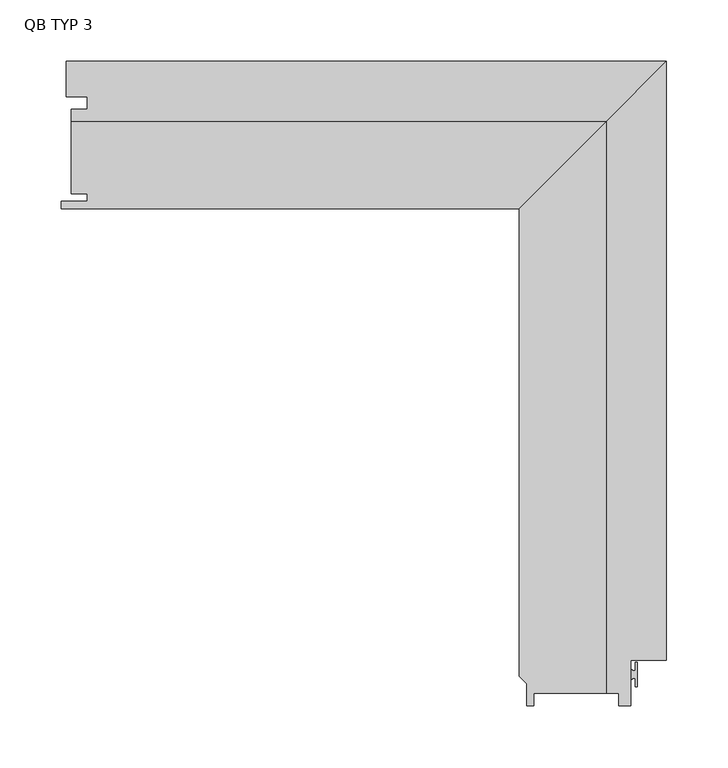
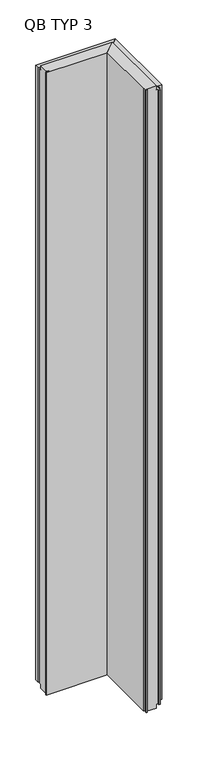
"""IFC4 building model written with IfcOpenShell, lengths in millimetres: plate geometry, TR_C_V_QBISS_Corner_Long_A : QB TYP 3."""

from ifc_helpers import new_model, si_unit, frame, origin, place, context, project, spatial, polyline, outline, extrude, faceted_brep, source, transform, mapped, element, save


def qb_typ_3_84fac94e(model_context):
    return source(origin(), model_context, "Body", "SolidModel", [
        faceted_brep([(122.5, -120.0, 4012.4), (122.5, -501.0, 4012.4), (128.5, -507.0, 4012.4), (128.5, -525.0, 4012.4), (134.5, -525.0, 4012.4), (134.5, -515.0, 4012.4), (193.5, -515.0, 4012.4), (193.5, -49.0, 4012.4), (134.5, -515.0, -12.4), (134.5, -525.0, -12.4), (128.5, -525.0, -12.4), (128.5, -507.0, -12.4), (122.5, -501.0, -12.4), (122.5, -120.0, -12.4), (193.5, -49.0, -12.4), (193.5, -515.0, -12.4), (193.5, -515.0, 12.7), (203.5, -515.0, 12.7), (203.5, -515.0, 3987.3), (193.5, -515.0, 3987.3), (203.5, -525.0, 12.7), (203.5, -525.0, 3987.3), (213.5, -525.0, 12.7), (213.5, -525.0, 3987.3), (213.5, -488.0, 12.7), (213.5, -488.0, 3987.3), (242.5, -488.0, 12.7), (242.5, -488.0, 3987.3), (242.5, 0.0, 12.7), (242.5, 0.0, 3987.3), (193.5, -49.0, 3987.3), (193.5, -49.0, 12.7)], [[[0, 1, 2, 3, 4, 5, 6, 7]], [[8, 9, 10, 11, 12, 13, 14, 15]], [[1, 0, 13, 12]], [[2, 1, 12, 11]], [[3, 2, 11, 10]], [[4, 3, 10, 9]], [[5, 4, 9, 8]], [[5, 8, 15, 16, 17, 18, 19, 6]], [[18, 17, 20, 21]], [[21, 20, 22, 23]], [[23, 22, 24, 25]], [[25, 24, 26, 27]], [[27, 26, 28, 29]], [[19, 30, 7, 6]], [[30, 19, 18, 21, 23, 25, 27, 29]], [[31, 16, 15, 14]], [[16, 31, 28, 26, 24, 22, 20, 17]], [[13, 0, 7, 30, 29, 28, 31, 14]]]),
        extrude(outline(polyline([(218.5, -509.5), (217.0001683, -509.5), (217.0001683, -502.7023593), (214.5001707, -502.7023593), (214.5001707, -503.5023593), (213.7001572, -503.5023593), (213.7001572, -495.5023028), (214.5001707, -495.5023028), (214.5001707, -496.3023028), (217.0001683, -496.3023028), (217.0001683, -489.5), (218.5, -489.5), (218.5, -509.5)])), frame((0.0, 0.0, 12.7), z_axis=(0.0, 0.0, 1.0), x_axis=(1.0, 0.0, 0.0)), (0.0, 0.0, 1.0), 3974.6),
        faceted_brep([(-242.5, -108.0, 4012.4), (-229.5, -108.0, 4012.4), (-229.5, -114.0, 4012.4), (-250.5, -114.0, 4012.4), (-250.5, -120.0, 4012.4), (122.5, -120.0, 4012.4), (193.5, -49.0, 4012.4), (-242.5, -49.0, 4012.4), (122.5, -120.0, -12.4), (-250.5, -120.0, -12.4), (-250.5, -114.0, -12.4), (-229.5, -114.0, -12.4), (-229.5, -108.0, -12.4), (-242.5, -108.0, -12.4), (-242.5, -49.0, -12.4), (193.5, -49.0, -12.4), (-242.5, -49.0, 12.7), (193.5, -49.0, 12.7), (-242.5, -39.0, 12.7), (-229.5, -39.0, 12.7), (-229.5, -29.0, 12.7), (-246.5, -29.0, 12.7), (-246.5, 0.0, 12.7), (242.5, 0.0, 12.7), (-246.5, 0.0, 3987.3), (242.5, 0.0, 3987.3), (-246.5, -29.0, 3987.3), (-229.5, -29.0, 3987.3), (-229.5, -39.0, 3987.3), (-242.5, -39.0, 3987.3), (-242.5, -49.0, 3987.3), (193.5, -49.0, 3987.3)], [[[0, 1, 2, 3, 4, 5, 6, 7]], [[8, 9, 10, 11, 12, 13, 14, 15]], [[16, 17, 15, 14]], [[17, 16, 18, 19, 20, 21, 22, 23]], [[1, 0, 13, 12]], [[2, 1, 12, 11]], [[3, 2, 11, 10]], [[4, 3, 10, 9]], [[5, 4, 9, 8]], [[23, 22, 24, 25]], [[22, 21, 26, 24]], [[21, 20, 27, 26]], [[20, 19, 28, 27]], [[19, 18, 29, 28]], [[13, 0, 7, 30, 29, 18, 16, 14]], [[31, 30, 7, 6]], [[30, 31, 25, 24, 26, 27, 28, 29]], [[5, 8, 15, 17, 23, 25, 31, 6]]]),
    ])


if __name__ == "__main__":
    model = new_model("IFC4")
    model_context = context("Model", 3, world=origin())
    ifc_project = project(units=[si_unit("LENGTHUNIT", "METRE", prefix="MILLI")], contexts=[model_context])
    site = spatial("IfcSite", under=ifc_project)
    building = spatial("IfcBuilding", under=site)
    placement = place(None, origin())
    qb_typ_3_shape = qb_typ_3_84fac94e(model_context)
    element("IfcPlate", 1, ObjectType="TR_C_V_QBISS_Corner_Long_A : QB TYP 3", at=placement, inside=building, context=model_context, shape_type="MappedRepresentation", body=[
        mapped(qb_typ_3_shape, transform((0.0, 0.0, 0.0), x_axis=(1.0, 0.0, 0.0), y_axis=(0.0, 1.0, 0.0), z_axis=(0.0, 0.0, 1.0))),
    ])
    save(model, "model.ifc")
